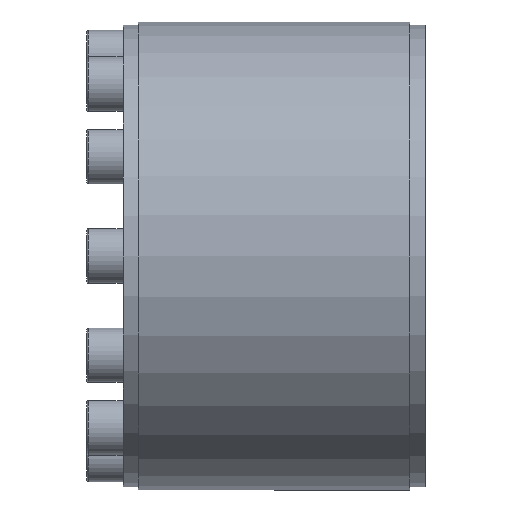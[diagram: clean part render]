
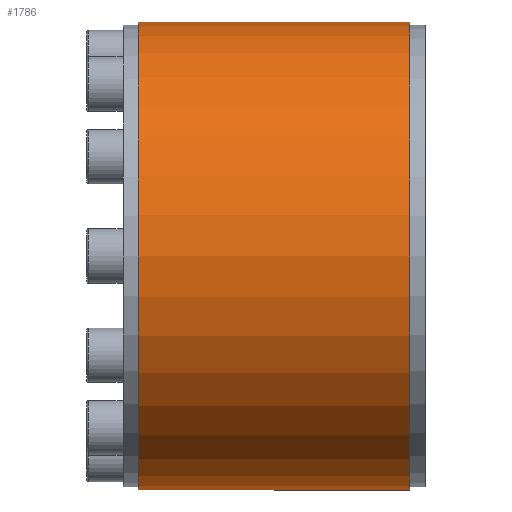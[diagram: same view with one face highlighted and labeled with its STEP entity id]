
A CAD part, left-side view. The second image highlights one B-rep face of the part: STEP entity #1786.
In plain terms, the highlighted cylindrical face has radius 77.5 mm (diameter 155 mm), a partial arc.
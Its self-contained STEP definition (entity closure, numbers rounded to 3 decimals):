
#132 = VERTEX_POINT ( 'NONE', #1584 ) ;
#292 = CARTESIAN_POINT ( 'NONE',  ( 0., -45., 0. ) ) ;
#318 = CARTESIAN_POINT ( 'NONE',  ( 0., 45., -77.5 ) ) ;
#411 = CARTESIAN_POINT ( 'NONE',  ( 0., 0., -77.5 ) ) ;
#551 = EDGE_CURVE ( 'NONE', #2476, #132, #3167, .T. ) ;
#780 = CIRCLE ( 'NONE', #3923, 77.5 ) ;
#1000 = EDGE_CURVE ( 'NONE', #2584, #3969, #2897, .T. ) ;
#1283 = DIRECTION ( 'NONE',  ( 0., -1., 0. ) ) ;
#1314 = CARTESIAN_POINT ( 'NONE',  ( 0., 45., 0. ) ) ;
#1570 = ORIENTED_EDGE ( 'NONE', *, *, #1000, .F. ) ;
#1584 = CARTESIAN_POINT ( 'NONE',  ( 0., -45., -77.5 ) ) ;
#1707 = CARTESIAN_POINT ( 'NONE',  ( 0., -45., 77.5 ) ) ;
#1724 = CYLINDRICAL_SURFACE ( 'NONE', #3766, 77.5 ) ;
#1760 = CARTESIAN_POINT ( 'NONE',  ( 0., 45., 77.5 ) ) ;
#1786 = ADVANCED_FACE ( 'NONE', ( #3269 ), #1724, .T. ) ;
#2020 = DIRECTION ( 'NONE',  ( 0., -1., 0. ) ) ;
#2312 = DIRECTION ( 'NONE',  ( 0., 0., -1. ) ) ;
#2444 = VECTOR ( 'NONE', #3161, 1000. ) ;
#2476 = VERTEX_POINT ( 'NONE', #318 ) ;
#2584 = VERTEX_POINT ( 'NONE', #1760 ) ;
#2857 = EDGE_CURVE ( 'NONE', #3969, #132, #4133, .T. ) ;
#2869 = DIRECTION ( 'NONE',  ( 0., -1., 0. ) ) ;
#2897 = LINE ( 'NONE', #4215, #2444 ) ;
#3038 = ORIENTED_EDGE ( 'NONE', *, *, #2857, .F. ) ;
#3161 = DIRECTION ( 'NONE',  ( 0., -1., 0. ) ) ;
#3167 = LINE ( 'NONE', #411, #3327 ) ;
#3269 = FACE_OUTER_BOUND ( 'NONE', #3623, .T. ) ;
#3327 = VECTOR ( 'NONE', #2869, 1000. ) ;
#3414 = AXIS2_PLACEMENT_3D ( 'NONE', #292, #3716, #4404 ) ;
#3623 = EDGE_LOOP ( 'NONE', ( #1570, #4189, #3959, #3038 ) ) ;
#3716 = DIRECTION ( 'NONE',  ( 0., -1., 0. ) ) ;
#3766 = AXIS2_PLACEMENT_3D ( 'NONE', #4080, #1283, #4400 ) ;
#3923 = AXIS2_PLACEMENT_3D ( 'NONE', #1314, #2020, #2312 ) ;
#3959 = ORIENTED_EDGE ( 'NONE', *, *, #551, .T. ) ;
#3969 = VERTEX_POINT ( 'NONE', #1707 ) ;
#4080 = CARTESIAN_POINT ( 'NONE',  ( 0., 0., 0. ) ) ;
#4133 = CIRCLE ( 'NONE', #3414, 77.5 ) ;
#4189 = ORIENTED_EDGE ( 'NONE', *, *, #4447, .T. ) ;
#4215 = CARTESIAN_POINT ( 'NONE',  ( 0., 0., 77.5 ) ) ;
#4400 = DIRECTION ( 'NONE',  ( 0., 0., -1. ) ) ;
#4404 = DIRECTION ( 'NONE',  ( 0., 0., -1. ) ) ;
#4447 = EDGE_CURVE ( 'NONE', #2584, #2476, #780, .T. ) ;
